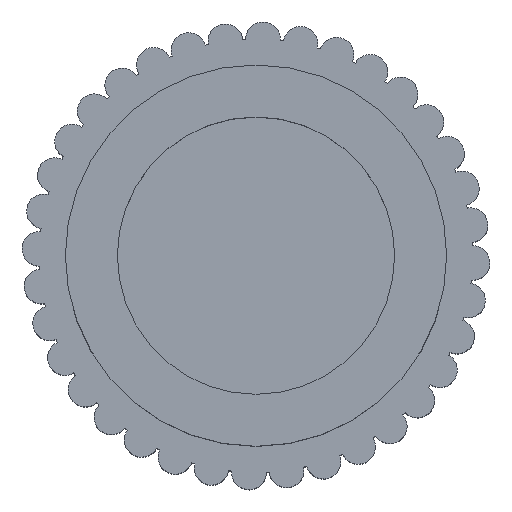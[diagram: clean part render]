
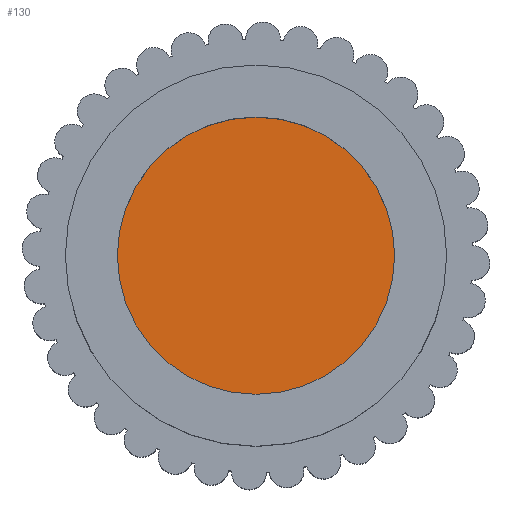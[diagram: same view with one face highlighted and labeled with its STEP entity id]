
A CAD part, top view. The second image highlights one B-rep face of the part: STEP entity #130.
In plain terms, the highlighted planar face has unit normal (0, 0, 1).
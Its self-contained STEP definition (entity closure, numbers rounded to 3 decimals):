
#130=ADVANCED_FACE('',(#678),#680,.F.);
#678=FACE_BOUND('',#679,.T.);
#679=EDGE_LOOP('',(#1124));
#680=PLANE('',#681);
#681=AXIS2_PLACEMENT_3D('',#682,#683,#684);
#682=CARTESIAN_POINT('',(0.,0.,1.));
#683=DIRECTION('',(0.,0.,-1.));
#684=DIRECTION('',(0.,-1.,0.));
#1124=ORIENTED_EDGE('',*,*,#1344,.T.);
#1344=EDGE_CURVE('',#1711,#1711,#1712,.F.);
#1711=VERTEX_POINT('',#2664);
#1712=CIRCLE('',#2665,16.);
#2664=CARTESIAN_POINT('',(-14.,-1.,1.));
#2665=AXIS2_PLACEMENT_3D('',#2666,#2667,#2668);
#2666=CARTESIAN_POINT('',(2.,-1.,1.));
#2667=DIRECTION('',(0.,0.,-1.));
#2668=DIRECTION('',(-1.,0.,0.));
